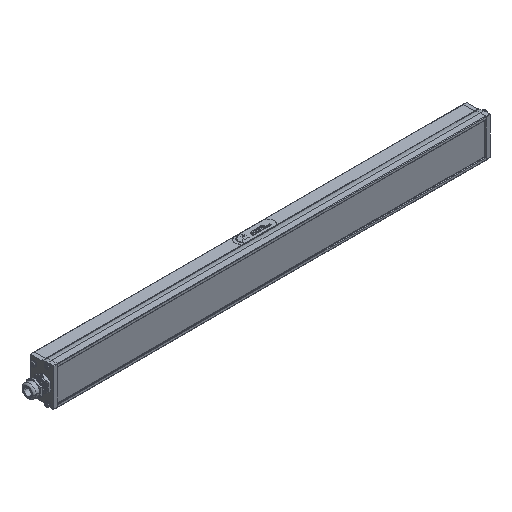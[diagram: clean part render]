
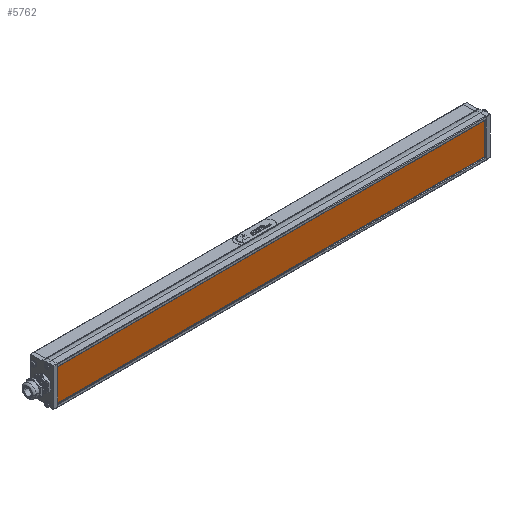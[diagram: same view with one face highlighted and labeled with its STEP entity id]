
A CAD part, isometric view. The second image highlights one B-rep face of the part: STEP entity #5762.
In plain terms, the highlighted planar face has unit normal (0, -1, 0) as drawn and (0, 1, 0) by its records, which use the part's own axes.
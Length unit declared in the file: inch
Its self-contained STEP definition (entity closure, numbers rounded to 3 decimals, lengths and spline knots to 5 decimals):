
#1636 = VECTOR ( 'NONE', #31433, 39.37008 ) ;
#1948 = DIRECTION ( 'NONE',  ( -1., 0., 0. ) ) ;
#2858 = CARTESIAN_POINT ( 'NONE',  ( 7.135, 0.03, 0.586 ) ) ;
#3686 = DIRECTION ( 'NONE',  ( 0., 0., 1. ) ) ;
#4154 = ORIENTED_EDGE ( 'NONE', *, *, #22236, .T. ) ;
#4973 = ORIENTED_EDGE ( 'NONE', *, *, #32024, .T. ) ;
#5762 = ADVANCED_FACE ( 'NONE', ( #18344 ), #31162, .T. ) ;
#7799 = VECTOR ( 'NONE', #14564, 39.37008 ) ;
#9345 = VECTOR ( 'NONE', #1948, 39.37008 ) ;
#10154 = CARTESIAN_POINT ( 'NONE',  ( -7.135, 0.03, 0.586 ) ) ;
#10595 = CARTESIAN_POINT ( 'NONE',  ( -7.135, 0.03, 0.586 ) ) ;
#13130 = EDGE_CURVE ( 'NONE', #23029, #24417, #18008, .T. ) ;
#13157 = EDGE_LOOP ( 'NONE', ( #28049, #4973, #29327, #4154 ) ) ;
#13569 = VERTEX_POINT ( 'NONE', #16207 ) ;
#14564 = DIRECTION ( 'NONE',  ( 0., 0., -1. ) ) ;
#16207 = CARTESIAN_POINT ( 'NONE',  ( -7.135, 0.03, -0.586 ) ) ;
#16561 = CARTESIAN_POINT ( 'NONE',  ( -7.135, 0.03, 0.586 ) ) ;
#17364 = AXIS2_PLACEMENT_3D ( 'NONE', #16561, #23813, #3686 ) ;
#17578 = VERTEX_POINT ( 'NONE', #10595 ) ;
#17664 = EDGE_CURVE ( 'NONE', #13569, #17578, #27122, .T. ) ;
#18008 = LINE ( 'NONE', #29421, #7799 ) ;
#18344 = FACE_OUTER_BOUND ( 'NONE', #13157, .T. ) ;
#20327 = DIRECTION ( 'NONE',  ( 1., 0., 0. ) ) ;
#22013 = CARTESIAN_POINT ( 'NONE',  ( 7.135, 0.03, -0.586 ) ) ;
#22236 = EDGE_CURVE ( 'NONE', #24417, #13569, #22260, .T. ) ;
#22260 = LINE ( 'NONE', #26851, #9345 ) ;
#23029 = VERTEX_POINT ( 'NONE', #2858 ) ;
#23813 = DIRECTION ( 'NONE',  ( 0., 1., 0. ) ) ;
#23859 = CARTESIAN_POINT ( 'NONE',  ( -7.135, 0.03, -0.586 ) ) ;
#24417 = VERTEX_POINT ( 'NONE', #22013 ) ;
#26851 = CARTESIAN_POINT ( 'NONE',  ( -7.135, 0.03, -0.586 ) ) ;
#27122 = LINE ( 'NONE', #23859, #1636 ) ;
#28049 = ORIENTED_EDGE ( 'NONE', *, *, #17664, .T. ) ;
#29327 = ORIENTED_EDGE ( 'NONE', *, *, #13130, .T. ) ;
#29421 = CARTESIAN_POINT ( 'NONE',  ( 7.135, 0.03, -0.586 ) ) ;
#29649 = VECTOR ( 'NONE', #20327, 39.37008 ) ;
#31162 = PLANE ( 'NONE',  #17364 ) ;
#31225 = LINE ( 'NONE', #10154, #29649 ) ;
#31433 = DIRECTION ( 'NONE',  ( 0., 0., 1. ) ) ;
#32024 = EDGE_CURVE ( 'NONE', #17578, #23029, #31225, .T. ) ;
